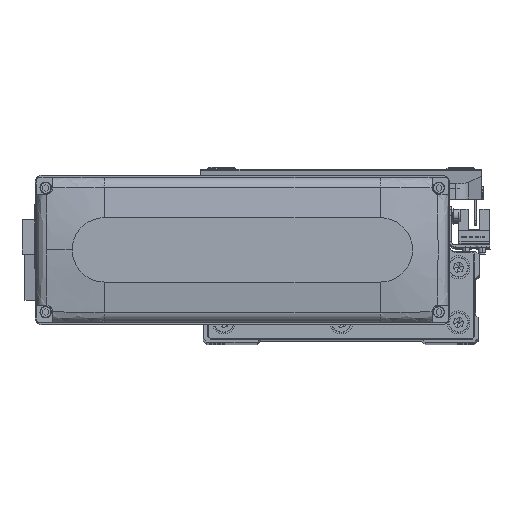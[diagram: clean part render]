
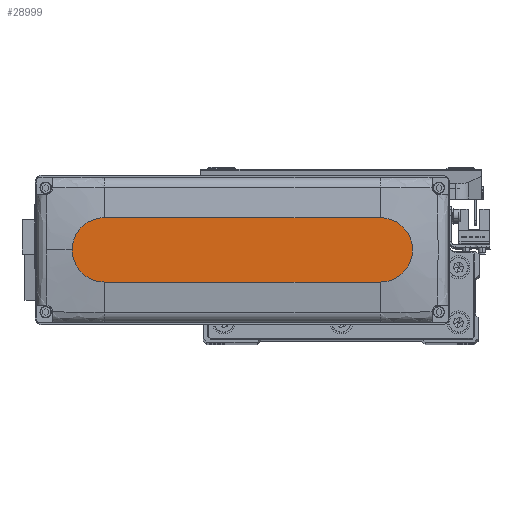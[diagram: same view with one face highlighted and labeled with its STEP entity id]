
A CAD part, top view. The second image highlights one B-rep face of the part: STEP entity #28999.
In plain terms, the highlighted planar face has unit normal (0, 0, 1).
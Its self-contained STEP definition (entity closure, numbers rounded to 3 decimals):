
#1015 = AXIS2_PLACEMENT_3D ( 'NONE', #34109, #23282, #19871 ) ;
#1041 = AXIS2_PLACEMENT_3D ( 'NONE', #37646, #12889, #13536 ) ;
#2097 = VECTOR ( 'NONE', #5003, 1000. ) ;
#2710 = ORIENTED_EDGE ( 'NONE', *, *, #42816, .T. ) ;
#3437 = VERTEX_POINT ( 'NONE', #39456 ) ;
#4205 = EDGE_LOOP ( 'NONE', ( #22239, #29634, #33183, #5455, #2710 ) ) ;
#4287 = DIRECTION ( 'NONE',  ( 1., 0., 0. ) ) ;
#4585 = EDGE_CURVE ( 'NONE', #17799, #10423, #11928, .T. ) ;
#4717 = AXIS2_PLACEMENT_3D ( 'NONE', #4734, #18450, #4287 ) ;
#4734 = CARTESIAN_POINT ( 'NONE',  ( 60., 0., 28.5 ) ) ;
#5003 = DIRECTION ( 'NONE',  ( 1., 0., 0. ) ) ;
#5455 = ORIENTED_EDGE ( 'NONE', *, *, #4585, .T. ) ;
#6693 = LINE ( 'NONE', #16801, #8587 ) ;
#8587 = VECTOR ( 'NONE', #27415, 1000. ) ;
#8750 = DIRECTION ( 'NONE',  ( 0., 0., 1. ) ) ;
#9195 = DIRECTION ( 'NONE',  ( 1., 0., 0. ) ) ;
#9390 = CARTESIAN_POINT ( 'NONE',  ( -60., 14., 28.5 ) ) ;
#10423 = VERTEX_POINT ( 'NONE', #33145 ) ;
#11928 = CIRCLE ( 'NONE', #4717, 14. ) ;
#12587 = PLANE ( 'NONE',  #42370 ) ;
#12799 = FACE_OUTER_BOUND ( 'NONE', #4205, .T. ) ;
#12889 = DIRECTION ( 'NONE',  ( 0., 0., 1. ) ) ;
#13536 = DIRECTION ( 'NONE',  ( 1., 0., 0. ) ) ;
#14698 = CIRCLE ( 'NONE', #1041, 14. ) ;
#15407 = CIRCLE ( 'NONE', #1015, 14. ) ;
#16801 = CARTESIAN_POINT ( 'NONE',  ( -60., 14., 28.5 ) ) ;
#17799 = VERTEX_POINT ( 'NONE', #37405 ) ;
#18450 = DIRECTION ( 'NONE',  ( 0., 0., 1. ) ) ;
#19871 = DIRECTION ( 'NONE',  ( 1., 0., 0. ) ) ;
#20081 = VERTEX_POINT ( 'NONE', #9390 ) ;
#22239 = ORIENTED_EDGE ( 'NONE', *, *, #29155, .T. ) ;
#22462 = CARTESIAN_POINT ( 'NONE',  ( 60., 14., 28.5 ) ) ;
#23282 = DIRECTION ( 'NONE',  ( 0., 0., 1. ) ) ;
#24158 = LINE ( 'NONE', #41744, #2097 ) ;
#24709 = EDGE_CURVE ( 'NONE', #3437, #17799, #24158, .T. ) ;
#26311 = CARTESIAN_POINT ( 'NONE',  ( 0., 0., 28.5 ) ) ;
#27415 = DIRECTION ( 'NONE',  ( -1., 0., 0. ) ) ;
#28999 = ADVANCED_FACE ( 'NONE', ( #12799 ), #12587, .T. ) ;
#29155 = EDGE_CURVE ( 'NONE', #41024, #20081, #6693, .T. ) ;
#29634 = ORIENTED_EDGE ( 'NONE', *, *, #44510, .T. ) ;
#33145 = CARTESIAN_POINT ( 'NONE',  ( 74., 0., 28.5 ) ) ;
#33183 = ORIENTED_EDGE ( 'NONE', *, *, #24709, .T. ) ;
#34109 = CARTESIAN_POINT ( 'NONE',  ( 60., 0., 28.5 ) ) ;
#37405 = CARTESIAN_POINT ( 'NONE',  ( 60., -14., 28.5 ) ) ;
#37646 = CARTESIAN_POINT ( 'NONE',  ( -60., 0., 28.5 ) ) ;
#39456 = CARTESIAN_POINT ( 'NONE',  ( -60., -14., 28.5 ) ) ;
#41024 = VERTEX_POINT ( 'NONE', #22462 ) ;
#41744 = CARTESIAN_POINT ( 'NONE',  ( -60., -14., 28.5 ) ) ;
#42370 = AXIS2_PLACEMENT_3D ( 'NONE', #26311, #8750, #9195 ) ;
#42816 = EDGE_CURVE ( 'NONE', #10423, #41024, #15407, .T. ) ;
#44510 = EDGE_CURVE ( 'NONE', #20081, #3437, #14698, .T. ) ;
